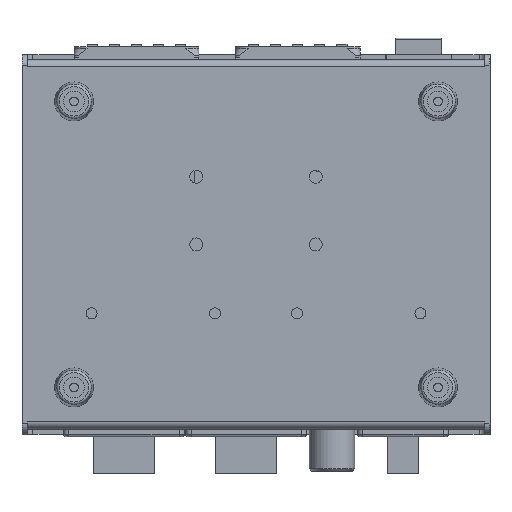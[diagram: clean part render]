
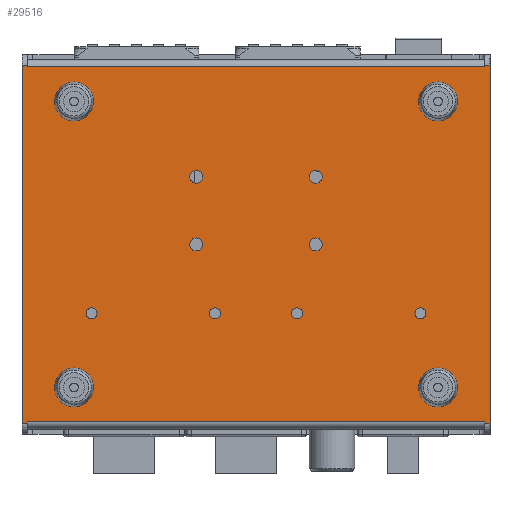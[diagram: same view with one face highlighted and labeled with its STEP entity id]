
A CAD part, front view. The second image highlights one B-rep face of the part: STEP entity #29516.
In plain terms, the highlighted planar face has unit normal (0, -1, 0).
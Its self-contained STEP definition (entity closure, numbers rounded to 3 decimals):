
#29516=ADVANCED_FACE('',(#36409,#36410,#36411,#36412,#36413,#36414,#36415,
#36416,#36417,#36418,#36419,#36420,#36421),#33177,.T.);
#33177=PLANE('',#94076);
#36409=FACE_BOUND('',#37776,.T.);
#36410=FACE_BOUND('',#37777,.T.);
#36411=FACE_BOUND('',#37778,.T.);
#36412=FACE_BOUND('',#37779,.T.);
#36413=FACE_BOUND('',#37780,.T.);
#36414=FACE_BOUND('',#37781,.T.);
#36415=FACE_BOUND('',#37782,.T.);
#36416=FACE_BOUND('',#37783,.T.);
#36417=FACE_BOUND('',#37784,.T.);
#36418=FACE_BOUND('',#37785,.T.);
#36419=FACE_BOUND('',#37786,.T.);
#36420=FACE_BOUND('',#37787,.T.);
#36421=FACE_BOUND('',#37788,.T.);
#37776=EDGE_LOOP('',(#59281,#59282,#59283,#59284,#59285,#59286,#59287,#59288,
#59289,#59290,#59291,#59292));
#37777=EDGE_LOOP('',(#59293));
#37778=EDGE_LOOP('',(#59294));
#37779=EDGE_LOOP('',(#59295));
#37780=EDGE_LOOP('',(#59296));
#37781=EDGE_LOOP('',(#59297));
#37782=EDGE_LOOP('',(#59298));
#37783=EDGE_LOOP('',(#59299));
#37784=EDGE_LOOP('',(#59300));
#37785=EDGE_LOOP('',(#59301));
#37786=EDGE_LOOP('',(#59302));
#37787=EDGE_LOOP('',(#59303));
#37788=EDGE_LOOP('',(#59304));
#42299=LINE('',#116530,#50470);
#42418=LINE('',#116970,#50589);
#42463=LINE('',#117110,#50634);
#42470=LINE('',#117129,#50641);
#42591=LINE('',#117576,#50762);
#42592=LINE('',#117580,#50763);
#42593=LINE('',#117583,#50764);
#42594=LINE('',#117584,#50765);
#42595=LINE('',#117585,#50766);
#42596=LINE('',#117586,#50767);
#42597=LINE('',#117587,#50768);
#42598=LINE('',#117588,#50769);
#50470=VECTOR('',#98766,1.);
#50589=VECTOR('',#99089,1.);
#50634=VECTOR('',#99196,1.);
#50641=VECTOR('',#99209,1.);
#50762=VECTOR('',#99558,1.);
#50763=VECTOR('',#99563,1.);
#50764=VECTOR('',#99564,1.);
#50765=VECTOR('',#99565,1.);
#50766=VECTOR('',#99566,1.);
#50767=VECTOR('',#99567,1.);
#50768=VECTOR('',#99568,1.);
#50769=VECTOR('',#99569,1.);
#59281=ORIENTED_EDGE('',*,*,#84067,.F.);
#59282=ORIENTED_EDGE('',*,*,#84068,.T.);
#59283=ORIENTED_EDGE('',*,*,#83547,.T.);
#59284=ORIENTED_EDGE('',*,*,#84069,.T.);
#59285=ORIENTED_EDGE('',*,*,#83839,.F.);
#59286=ORIENTED_EDGE('',*,*,#84070,.T.);
#59287=ORIENTED_EDGE('',*,*,#84065,.T.);
#59288=ORIENTED_EDGE('',*,*,#84071,.T.);
#59289=ORIENTED_EDGE('',*,*,#83766,.F.);
#59290=ORIENTED_EDGE('',*,*,#84072,.F.);
#59291=ORIENTED_EDGE('',*,*,#83830,.T.);
#59292=ORIENTED_EDGE('',*,*,#84073,.T.);
#59293=ORIENTED_EDGE('',*,*,#84074,.F.);
#59294=ORIENTED_EDGE('',*,*,#84075,.F.);
#59295=ORIENTED_EDGE('',*,*,#84076,.F.);
#59296=ORIENTED_EDGE('',*,*,#84077,.F.);
#59297=ORIENTED_EDGE('',*,*,#84078,.F.);
#59298=ORIENTED_EDGE('',*,*,#84079,.F.);
#59299=ORIENTED_EDGE('',*,*,#84080,.F.);
#59300=ORIENTED_EDGE('',*,*,#84081,.F.);
#59301=ORIENTED_EDGE('',*,*,#84082,.F.);
#59302=ORIENTED_EDGE('',*,*,#84083,.F.);
#59303=ORIENTED_EDGE('',*,*,#84084,.F.);
#59304=ORIENTED_EDGE('',*,*,#84085,.F.);
#77291=VERTEX_POINT('',#116528);
#77293=VERTEX_POINT('',#116531);
#77511=VERTEX_POINT('',#116969);
#77512=VERTEX_POINT('',#116971);
#77568=VERTEX_POINT('',#117095);
#77575=VERTEX_POINT('',#117109);
#77576=VERTEX_POINT('',#117113);
#77584=VERTEX_POINT('',#117128);
#77796=VERTEX_POINT('',#117575);
#77797=VERTEX_POINT('',#117577);
#77798=VERTEX_POINT('',#117581);
#77799=VERTEX_POINT('',#117582);
#77800=VERTEX_POINT('',#117590);
#77801=VERTEX_POINT('',#117592);
#77802=VERTEX_POINT('',#117594);
#77803=VERTEX_POINT('',#117596);
#77804=VERTEX_POINT('',#117598);
#77805=VERTEX_POINT('',#117600);
#77806=VERTEX_POINT('',#117602);
#77807=VERTEX_POINT('',#117604);
#77808=VERTEX_POINT('',#117606);
#77809=VERTEX_POINT('',#117608);
#77810=VERTEX_POINT('',#117610);
#77811=VERTEX_POINT('',#117612);
#83547=EDGE_CURVE('',#77293,#77291,#42299,.T.);
#83766=EDGE_CURVE('',#77511,#77512,#42418,.T.);
#83830=EDGE_CURVE('',#77568,#77575,#42463,.T.);
#83839=EDGE_CURVE('',#77584,#77576,#42470,.T.);
#84065=EDGE_CURVE('',#77797,#77796,#42591,.T.);
#84067=EDGE_CURVE('',#77798,#77799,#42592,.T.);
#84068=EDGE_CURVE('',#77798,#77293,#42593,.T.);
#84069=EDGE_CURVE('',#77291,#77576,#42594,.T.);
#84070=EDGE_CURVE('',#77584,#77797,#42595,.T.);
#84071=EDGE_CURVE('',#77796,#77512,#42596,.T.);
#84072=EDGE_CURVE('',#77568,#77511,#42597,.T.);
#84073=EDGE_CURVE('',#77575,#77799,#42598,.T.);
#84074=EDGE_CURVE('',#77800,#77800,#92938,.T.);
#84075=EDGE_CURVE('',#77801,#77801,#92939,.T.);
#84076=EDGE_CURVE('',#77802,#77802,#92940,.T.);
#84077=EDGE_CURVE('',#77803,#77803,#92941,.T.);
#84078=EDGE_CURVE('',#77804,#77804,#92942,.T.);
#84079=EDGE_CURVE('',#77805,#77805,#92943,.T.);
#84080=EDGE_CURVE('',#77806,#77806,#92944,.T.);
#84081=EDGE_CURVE('',#77807,#77807,#92945,.T.);
#84082=EDGE_CURVE('',#77808,#77808,#92946,.T.);
#84083=EDGE_CURVE('',#77809,#77809,#92947,.T.);
#84084=EDGE_CURVE('',#77810,#77810,#92948,.T.);
#84085=EDGE_CURVE('',#77811,#77811,#92949,.T.);
#92938=CIRCLE('',#94064,7.5);
#92939=CIRCLE('',#94065,7.5);
#92940=CIRCLE('',#94066,7.5);
#92941=CIRCLE('',#94067,2.5);
#92942=CIRCLE('',#94068,2.5);
#92943=CIRCLE('',#94069,2.5);
#92944=CIRCLE('',#94070,2.5);
#92945=CIRCLE('',#94071,2.1);
#92946=CIRCLE('',#94072,2.1);
#92947=CIRCLE('',#94073,2.1);
#92948=CIRCLE('',#94074,2.1);
#92949=CIRCLE('',#94075,7.5);
#94064=AXIS2_PLACEMENT_3D('',#117589,#99570,#99571);
#94065=AXIS2_PLACEMENT_3D('',#117591,#99572,#99573);
#94066=AXIS2_PLACEMENT_3D('',#117593,#99574,#99575);
#94067=AXIS2_PLACEMENT_3D('',#117595,#99576,#99577);
#94068=AXIS2_PLACEMENT_3D('',#117597,#99578,#99579);
#94069=AXIS2_PLACEMENT_3D('',#117599,#99580,#99581);
#94070=AXIS2_PLACEMENT_3D('',#117601,#99582,#99583);
#94071=AXIS2_PLACEMENT_3D('',#117603,#99584,#99585);
#94072=AXIS2_PLACEMENT_3D('',#117605,#99586,#99587);
#94073=AXIS2_PLACEMENT_3D('',#117607,#99588,#99589);
#94074=AXIS2_PLACEMENT_3D('',#117609,#99590,#99591);
#94075=AXIS2_PLACEMENT_3D('',#117611,#99592,#99593);
#94076=AXIS2_PLACEMENT_3D('',#117613,#99594,#99595);
#98766=DIRECTION('',(0.,0.,1.));
#99089=DIRECTION('',(0.,0.,1.));
#99196=DIRECTION('',(0.,0.,1.));
#99209=DIRECTION('',(0.,0.,1.));
#99558=DIRECTION('',(0.,0.,1.));
#99563=DIRECTION('',(0.,0.,1.));
#99564=DIRECTION('',(1.,0.,0.));
#99565=DIRECTION('',(1.,0.,0.));
#99566=DIRECTION('',(1.,0.,0.));
#99567=DIRECTION('',(-1.,0.,0.));
#99568=DIRECTION('',(1.,0.,0.));
#99569=DIRECTION('',(-1.,0.,0.));
#99570=DIRECTION('',(0.,-1.,0.));
#99571=DIRECTION('',(0.,0.,-1.));
#99572=DIRECTION('',(0.,-1.,0.));
#99573=DIRECTION('',(0.,0.,-1.));
#99574=DIRECTION('',(0.,-1.,0.));
#99575=DIRECTION('',(0.,0.,-1.));
#99576=DIRECTION('',(0.,-1.,0.));
#99577=DIRECTION('',(0.,0.,1.));
#99578=DIRECTION('',(0.,-1.,0.));
#99579=DIRECTION('',(0.,0.,1.));
#99580=DIRECTION('',(0.,-1.,0.));
#99581=DIRECTION('',(0.,0.,1.));
#99582=DIRECTION('',(0.,-1.,0.));
#99583=DIRECTION('',(0.,0.,1.));
#99584=DIRECTION('',(0.,-1.,0.));
#99585=DIRECTION('',(0.,0.,1.));
#99586=DIRECTION('',(0.,-1.,0.));
#99587=DIRECTION('',(0.,0.,1.));
#99588=DIRECTION('',(0.,-1.,0.));
#99589=DIRECTION('',(0.,0.,1.));
#99590=DIRECTION('',(0.,-1.,0.));
#99591=DIRECTION('',(0.,0.,1.));
#99592=DIRECTION('',(0.,-1.,0.));
#99593=DIRECTION('',(0.,0.,-1.));
#99594=DIRECTION('',(0.,-1.,0.));
#99595=DIRECTION('',(-1.,0.,0.));
#116528=CARTESIAN_POINT('',(-72.,-37.,-140.263));
#116530=CARTESIAN_POINT('',(-72.,-37.,-145.));
#116531=CARTESIAN_POINT('',(-72.,-37.,-141.));
#116969=CARTESIAN_POINT('',(104.,-37.,-3.737));
#116970=CARTESIAN_POINT('',(104.,-37.,-145.));
#116971=CARTESIAN_POINT('',(104.,-37.,-3.));
#117095=CARTESIAN_POINT('',(-72.,-37.,-3.737));
#117109=CARTESIAN_POINT('',(-72.,-37.,-3.));
#117110=CARTESIAN_POINT('',(-72.,-37.,-145.));
#117113=CARTESIAN_POINT('',(104.,-37.,-140.263));
#117128=CARTESIAN_POINT('',(104.,-37.,-141.));
#117129=CARTESIAN_POINT('',(104.,-37.,-145.));
#117575=CARTESIAN_POINT('',(106.,-37.,-3.));
#117576=CARTESIAN_POINT('',(106.,-37.,-145.));
#117577=CARTESIAN_POINT('',(106.,-37.,-141.));
#117580=CARTESIAN_POINT('',(-74.,-37.,-145.));
#117581=CARTESIAN_POINT('',(-74.,-37.,-141.));
#117582=CARTESIAN_POINT('',(-74.,-37.,-3.));
#117583=CARTESIAN_POINT('',(-74.,-37.,-141.));
#117584=CARTESIAN_POINT('',(-42.,-37.,-140.263));
#117585=CARTESIAN_POINT('',(104.,-37.,-141.));
#117586=CARTESIAN_POINT('',(104.,-37.,-3.));
#117587=CARTESIAN_POINT('',(-42.,-37.,-3.737));
#117588=CARTESIAN_POINT('',(-74.,-37.,-3.));
#117589=CARTESIAN_POINT('',(86.,-37.,-17.));
#117590=CARTESIAN_POINT('',(86.,-37.,-24.5));
#117591=CARTESIAN_POINT('',(86.,-37.,-127.));
#117592=CARTESIAN_POINT('',(86.,-37.,-134.5));
#117593=CARTESIAN_POINT('',(-54.,-37.,-17.));
#117594=CARTESIAN_POINT('',(-54.,-37.,-24.5));
#117595=CARTESIAN_POINT('',(-7.,-37.,-72.));
#117596=CARTESIAN_POINT('',(-7.,-37.,-69.5));
#117597=CARTESIAN_POINT('',(39.,-37.,-46.));
#117598=CARTESIAN_POINT('',(39.,-37.,-43.5));
#117599=CARTESIAN_POINT('',(39.,-37.,-72.));
#117600=CARTESIAN_POINT('',(39.,-37.,-69.5));
#117601=CARTESIAN_POINT('',(-7.,-37.,-46.));
#117602=CARTESIAN_POINT('',(-7.,-37.,-43.5));
#117603=CARTESIAN_POINT('',(79.25,-37.,-98.5));
#117604=CARTESIAN_POINT('',(79.25,-37.,-96.4));
#117605=CARTESIAN_POINT('',(31.75,-37.,-98.5));
#117606=CARTESIAN_POINT('',(31.75,-37.,-96.4));
#117607=CARTESIAN_POINT('',(0.25,-37.,-98.5));
#117608=CARTESIAN_POINT('',(0.25,-37.,-96.4));
#117609=CARTESIAN_POINT('',(-47.25,-37.,-98.5));
#117610=CARTESIAN_POINT('',(-47.25,-37.,-96.4));
#117611=CARTESIAN_POINT('',(-54.,-37.,-127.));
#117612=CARTESIAN_POINT('',(-54.,-37.,-134.5));
#117613=CARTESIAN_POINT('',(-74.,-37.,-145.));
